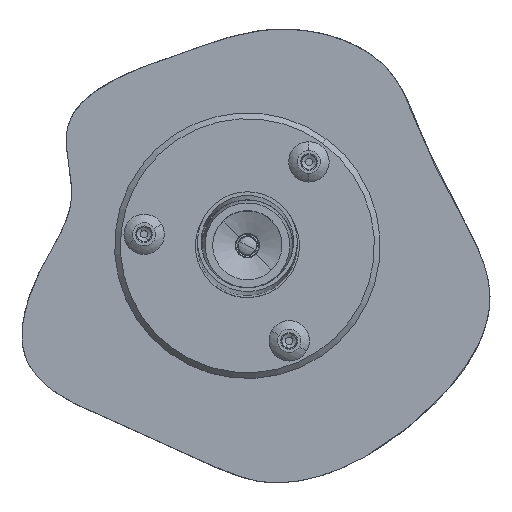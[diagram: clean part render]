
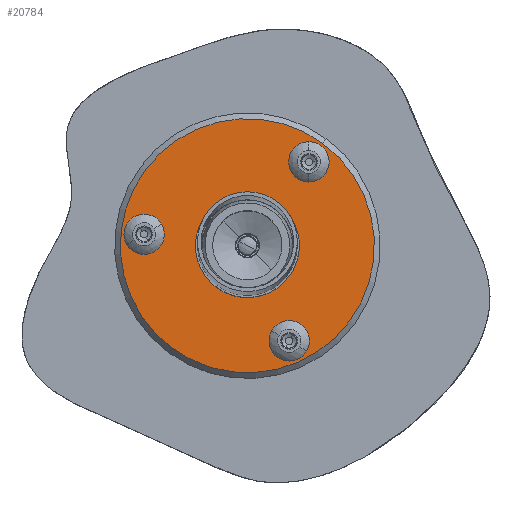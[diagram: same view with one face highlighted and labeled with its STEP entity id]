
A CAD part, top view. The second image highlights one B-rep face of the part: STEP entity #20784.
In plain terms, the highlighted planar face has unit normal (0, 0, 1) as drawn and (0, 1, 0) by its records, which use the part's own axes.
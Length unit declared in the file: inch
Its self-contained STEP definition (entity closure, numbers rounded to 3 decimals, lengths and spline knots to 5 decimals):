
#138 = FACE_BOUND ( 'NONE', #22962, .T. ) ;
#341 = AXIS2_PLACEMENT_3D ( 'NONE', #19237, #7558, #7504 ) ;
#380 = ORIENTED_EDGE ( 'NONE', *, *, #17833, .T. ) ;
#496 = DIRECTION ( 'NONE',  ( 0., 0., 1. ) ) ;
#818 = FACE_BOUND ( 'NONE', #22286, .T. ) ;
#918 = DIRECTION ( 'NONE',  ( 0., -1., 0. ) ) ;
#1323 = CARTESIAN_POINT ( 'NONE',  ( 0., 0.125, -1.125 ) ) ;
#1767 = EDGE_LOOP ( 'NONE', ( #25843, #380 ) ) ;
#1975 = EDGE_CURVE ( 'NONE', #8929, #2994, #10812, .T. ) ;
#2095 = ORIENTED_EDGE ( 'NONE', *, *, #13798, .F. ) ;
#2164 = CIRCLE ( 'NONE', #4258, 0.133 ) ;
#2994 = VERTEX_POINT ( 'NONE', #25386 ) ;
#3055 = EDGE_CURVE ( 'NONE', #8877, #15611, #26689, .T. ) ;
#3299 = AXIS2_PLACEMENT_3D ( 'NONE', #17327, #4065, #19558 ) ;
#3548 = DIRECTION ( 'NONE',  ( 0., 0., 1. ) ) ;
#3732 = ORIENTED_EDGE ( 'NONE', *, *, #19397, .F. ) ;
#3983 = CARTESIAN_POINT ( 'NONE',  ( 0., 0.125, -0.992 ) ) ;
#4035 = EDGE_LOOP ( 'NONE', ( #3732, #16568 ) ) ;
#4065 = DIRECTION ( 'NONE',  ( 0., 1., 0. ) ) ;
#4152 = AXIS2_PLACEMENT_3D ( 'NONE', #4508, #20024, #6707 ) ;
#4182 = DIRECTION ( 'NONE',  ( 0., 0., -1. ) ) ;
#4258 = AXIS2_PLACEMENT_3D ( 'NONE', #1323, #16791, #3548 ) ;
#4508 = CARTESIAN_POINT ( 'NONE',  ( 0.97428, 0.125, 0.5625 ) ) ;
#5068 = AXIS2_PLACEMENT_3D ( 'NONE', #10223, #25766, #12456 ) ;
#5499 = DIRECTION ( 'NONE',  ( 0., -1., 0. ) ) ;
#5513 = AXIS2_PLACEMENT_3D ( 'NONE', #22575, #13695, #496 ) ;
#5858 = ORIENTED_EDGE ( 'NONE', *, *, #27529, .T. ) ;
#6073 = CARTESIAN_POINT ( 'NONE',  ( 0.97428, 0.125, 0.5625 ) ) ;
#6161 = EDGE_CURVE ( 'NONE', #9362, #27291, #23257, .T. ) ;
#6707 = DIRECTION ( 'NONE',  ( 0., 0., 1. ) ) ;
#7504 = DIRECTION ( 'NONE',  ( 0., 0., 1. ) ) ;
#7558 = DIRECTION ( 'NONE',  ( 0., 1., 0. ) ) ;
#8160 = CARTESIAN_POINT ( 'NONE',  ( 0., 0.125, 0.133 ) ) ;
#8261 = CARTESIAN_POINT ( 'NONE',  ( 0., 0.125, -1.375 ) ) ;
#8271 = DIRECTION ( 'NONE',  ( 0., 0., 1. ) ) ;
#8877 = VERTEX_POINT ( 'NONE', #8160 ) ;
#8929 = VERTEX_POINT ( 'NONE', #8261 ) ;
#9234 = PLANE ( 'NONE',  #5513 ) ;
#9362 = VERTEX_POINT ( 'NONE', #11600 ) ;
#9459 = AXIS2_PLACEMENT_3D ( 'NONE', #14110, #918, #16370 ) ;
#9738 = AXIS2_PLACEMENT_3D ( 'NONE', #25430, #12109, #27618 ) ;
#10223 = CARTESIAN_POINT ( 'NONE',  ( 0., 0.125, 0. ) ) ;
#10696 = EDGE_CURVE ( 'NONE', #27273, #19173, #11788, .T. ) ;
#10738 = CARTESIAN_POINT ( 'NONE',  ( -0.97428, 0.125, 0.4295 ) ) ;
#10812 = CIRCLE ( 'NONE', #341, 1.375 ) ;
#11320 = CARTESIAN_POINT ( 'NONE',  ( -0.97428, 0.125, 0.5625 ) ) ;
#11600 = CARTESIAN_POINT ( 'NONE',  ( -0.97428, 0.125, 0.6955 ) ) ;
#11662 = ORIENTED_EDGE ( 'NONE', *, *, #3055, .T. ) ;
#11788 = CIRCLE ( 'NONE', #4152, 0.133 ) ;
#11828 = FACE_OUTER_BOUND ( 'NONE', #1767, .T. ) ;
#12109 = DIRECTION ( 'NONE',  ( 0., 1., 0. ) ) ;
#12456 = DIRECTION ( 'NONE',  ( 0., 0., 1. ) ) ;
#13559 = DIRECTION ( 'NONE',  ( 0., 0., 1. ) ) ;
#13695 = DIRECTION ( 'NONE',  ( 0., 1., 0. ) ) ;
#13798 = EDGE_CURVE ( 'NONE', #27291, #9362, #26065, .T. ) ;
#14110 = CARTESIAN_POINT ( 'NONE',  ( 0., 0.125, 0. ) ) ;
#14180 = CARTESIAN_POINT ( 'NONE',  ( 0.97428, 0.125, 0.6955 ) ) ;
#14282 = EDGE_CURVE ( 'NONE', #21428, #28657, #2164, .T. ) ;
#15338 = CIRCLE ( 'NONE', #9459, 0.133 ) ;
#15551 = CARTESIAN_POINT ( 'NONE',  ( 0., 0.125, 0. ) ) ;
#15611 = VERTEX_POINT ( 'NONE', #19518 ) ;
#16370 = DIRECTION ( 'NONE',  ( 0., 0., -1. ) ) ;
#16568 = ORIENTED_EDGE ( 'NONE', *, *, #10696, .F. ) ;
#16791 = DIRECTION ( 'NONE',  ( 0., 1., 0. ) ) ;
#17327 = CARTESIAN_POINT ( 'NONE',  ( -0.97428, 0.125, 0.5625 ) ) ;
#17823 = FACE_BOUND ( 'NONE', #25608, .T. ) ;
#17833 = EDGE_CURVE ( 'NONE', #2994, #8929, #22459, .T. ) ;
#18900 = CIRCLE ( 'NONE', #26063, 0.133 ) ;
#19173 = VERTEX_POINT ( 'NONE', #14180 ) ;
#19237 = CARTESIAN_POINT ( 'NONE',  ( 0., 0.125, 0. ) ) ;
#19397 = EDGE_CURVE ( 'NONE', #19173, #27273, #18900, .T. ) ;
#19518 = CARTESIAN_POINT ( 'NONE',  ( 0., 0.125, -0.133 ) ) ;
#19558 = DIRECTION ( 'NONE',  ( 0., 0., 1. ) ) ;
#19770 = AXIS2_PLACEMENT_3D ( 'NONE', #15551, #5499, #4182 ) ;
#20024 = DIRECTION ( 'NONE',  ( 0., 1., 0. ) ) ;
#20049 = ORIENTED_EDGE ( 'NONE', *, *, #6161, .F. ) ;
#20784 = ADVANCED_FACE ( 'NONE', ( #11828, #818, #17823, #138, #22996 ), #9234, .T. ) ;
#21428 = VERTEX_POINT ( 'NONE', #3983 ) ;
#21615 = DIRECTION ( 'NONE',  ( 0., 1., 0. ) ) ;
#21827 = EDGE_CURVE ( 'NONE', #28657, #21428, #25932, .T. ) ;
#22286 = EDGE_LOOP ( 'NONE', ( #5858, #11662 ) ) ;
#22459 = CIRCLE ( 'NONE', #5068, 1.375 ) ;
#22575 = CARTESIAN_POINT ( 'NONE',  ( 0., 0.125, 0. ) ) ;
#22962 = EDGE_LOOP ( 'NONE', ( #20049, #2095 ) ) ;
#22996 = FACE_BOUND ( 'NONE', #4035, .T. ) ;
#23257 = CIRCLE ( 'NONE', #3299, 0.133 ) ;
#23651 = ORIENTED_EDGE ( 'NONE', *, *, #21827, .F. ) ;
#24088 = CARTESIAN_POINT ( 'NONE',  ( 0.97428, 0.125, 0.4295 ) ) ;
#24125 = CARTESIAN_POINT ( 'NONE',  ( 0., 0.125, -1.258 ) ) ;
#24341 = ORIENTED_EDGE ( 'NONE', *, *, #14282, .F. ) ;
#25386 = CARTESIAN_POINT ( 'NONE',  ( 0., 0.125, 1.375 ) ) ;
#25430 = CARTESIAN_POINT ( 'NONE',  ( 0., 0.125, -1.125 ) ) ;
#25608 = EDGE_LOOP ( 'NONE', ( #24341, #23651 ) ) ;
#25766 = DIRECTION ( 'NONE',  ( 0., 1., 0. ) ) ;
#25843 = ORIENTED_EDGE ( 'NONE', *, *, #1975, .T. ) ;
#25932 = CIRCLE ( 'NONE', #9738, 0.133 ) ;
#26063 = AXIS2_PLACEMENT_3D ( 'NONE', #6073, #21615, #8271 ) ;
#26065 = CIRCLE ( 'NONE', #26642, 0.133 ) ;
#26642 = AXIS2_PLACEMENT_3D ( 'NONE', #11320, #26839, #13559 ) ;
#26689 = CIRCLE ( 'NONE', #19770, 0.133 ) ;
#26839 = DIRECTION ( 'NONE',  ( 0., 1., 0. ) ) ;
#27273 = VERTEX_POINT ( 'NONE', #24088 ) ;
#27291 = VERTEX_POINT ( 'NONE', #10738 ) ;
#27529 = EDGE_CURVE ( 'NONE', #15611, #8877, #15338, .T. ) ;
#27618 = DIRECTION ( 'NONE',  ( 0., 0., 1. ) ) ;
#28657 = VERTEX_POINT ( 'NONE', #24125 ) ;
